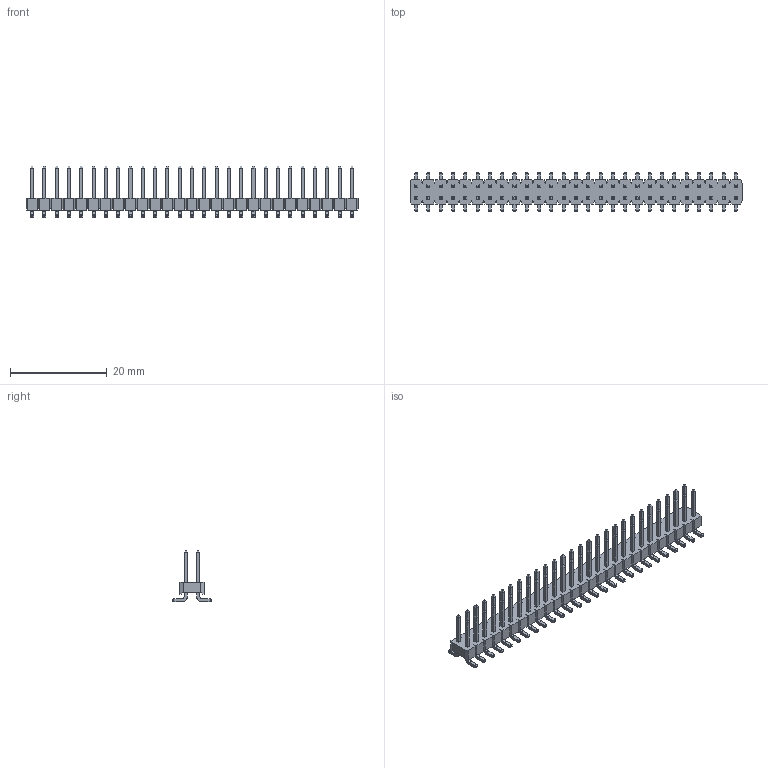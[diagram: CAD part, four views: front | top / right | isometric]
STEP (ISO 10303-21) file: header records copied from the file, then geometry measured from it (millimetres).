
FILE_DESCRIPTION(/* description */ (''),/* implementation_level */ '2;1');
FILE_NAME(/* name */ '961254-6700-XX-XX',/* time_stamp */ '2007-06-18T12:44:27+02:00',/* author */ (''),/* organization */ (''),/* preprocessor_version */ 'ST-DEVELOPER v9',/* originating_system */ 'UGS - NX 4.0',/* authorisation */ '');
FILE_SCHEMA (('AUTOMOTIVE_DESIGN { 1 0 10303 214 1 1 1 1 }'));
Length unit declared in the file: millimetre
Products named in the file (1): 961254-6700-XX-XX
Bounding box: 68.58 x 8 x 10.7 mm (x, y, z)
Volume: 943.1 mm3; surface area: 2575.4 mm2
Topology: 1 solids, 1 shells, 1462 faces, 3624 edges, 2272 vertices
Faces by surface type: plane 1138, cylinder 324
Entity records: 42288 total; most frequent: CARTESIAN_POINT 7359, ORIENTED_EDGE 7248, DIRECTION 6982, EDGE_CURVE 3624, LINE 3192, VECTOR 3192, VERTEX_POINT 2272, AXIS2_PLACEMENT_3D 1895
